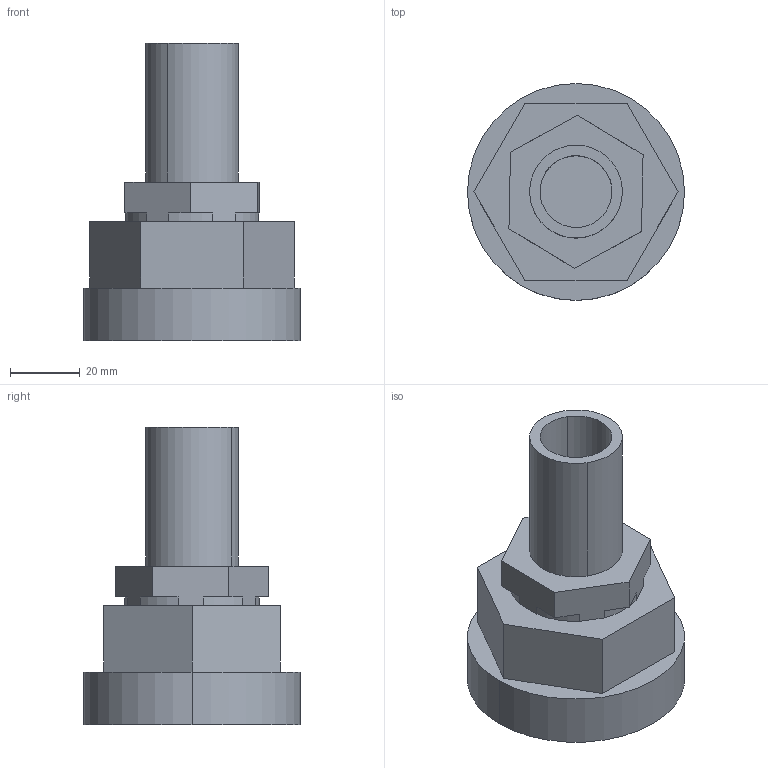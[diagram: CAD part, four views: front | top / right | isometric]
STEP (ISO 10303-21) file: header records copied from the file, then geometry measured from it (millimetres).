
FILE_DESCRIPTION (( 'STEP AP214' ), '1' );
FILE_NAME ('12-weldable-top-out.STEP', '2012-12-03T22:25:29', ( '' ), ( '' ), 'SwSTEP 2.0', 'SolidWorks 2012', '' );
FILE_SCHEMA (( 'AUTOMOTIVE_DESIGN' ));
Length unit declared in the file: inch
Products named in the file (1): 12-weldable-top-out
Bounding box: 62.33 x 62.33 x 85.47 mm (x, y, z)
Volume: 111812.5 mm3; surface area: 19998.2 mm2
Topology: 1 solids, 1 shells, 36 faces, 90 edges, 60 vertices
Faces by surface type: plane 24, cylinder 12
Entity records: 1261 total; most frequent: DIRECTION 188, CARTESIAN_POINT 187, ORIENTED_EDGE 180, EDGE_CURVE 90, LINE 66, VECTOR 66, AXIS2_PLACEMENT_3D 61, VERTEX_POINT 60
